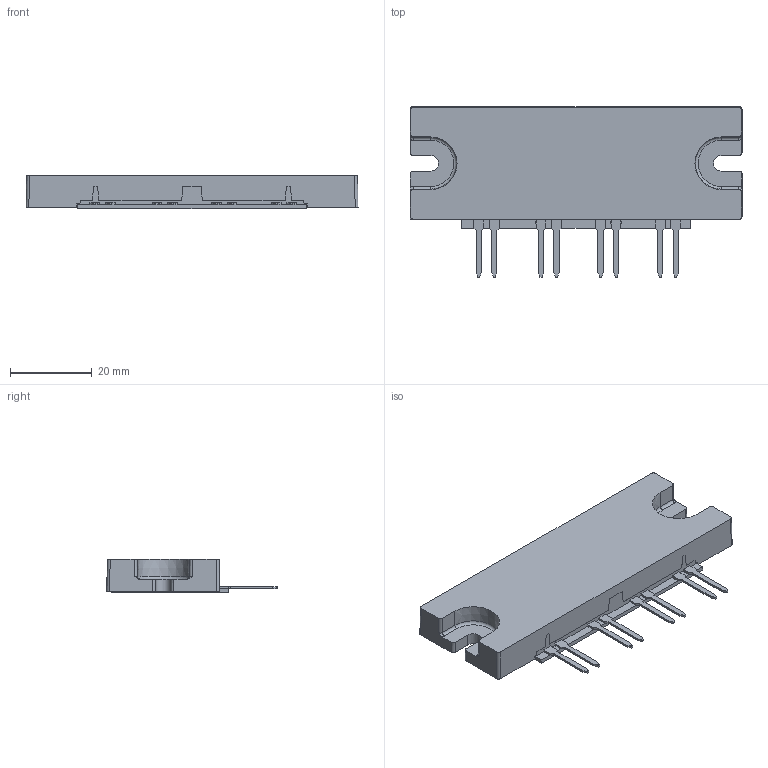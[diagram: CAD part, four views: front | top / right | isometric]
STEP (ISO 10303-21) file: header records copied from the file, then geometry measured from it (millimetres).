
FILE_DESCRIPTION(/* description */ (''),/* implementation_level */ '2;1');
FILE_NAME(/* name */ 'R:\Stock\3D pour clients\2D3D 536 B.stp',/* time_stamp */ '2021-11-18T10:20:23+01:00',/* author */ ('fbros'),/* organization */ (''),/* preprocessor_version */ 'ST-DEVELOPER v17',/* originating_system */ 'Autodesk Inventor 2018',/* authorisation */ '');
FILE_SCHEMA (('AUTOMOTIVE_DESIGN { 1 0 10303 214 3 1 1 }'));
Length unit declared in the file: millimetre
Products named in the file (1): SHT842xxx
Bounding box: 81.28 x 41.74 x 8.26 mm (x, y, z)
Volume: 16986.4 mm3; surface area: 9255.9 mm2
Topology: 1 solids, 2 shells, 230 faces, 654 edges, 428 vertices
Faces by surface type: plane 200, cylinder 22, bspline 4, torus 2, cone 2
Entity records: 7761 total; most frequent: CARTESIAN_POINT 1455, ORIENTED_EDGE 1308, DIRECTION 1158, EDGE_CURVE 654, LINE 596, VECTOR 596, VERTEX_POINT 428, AXIS2_PLACEMENT_3D 281
